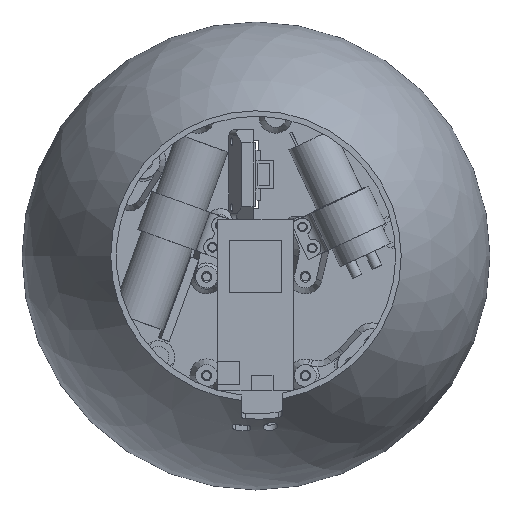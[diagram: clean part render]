
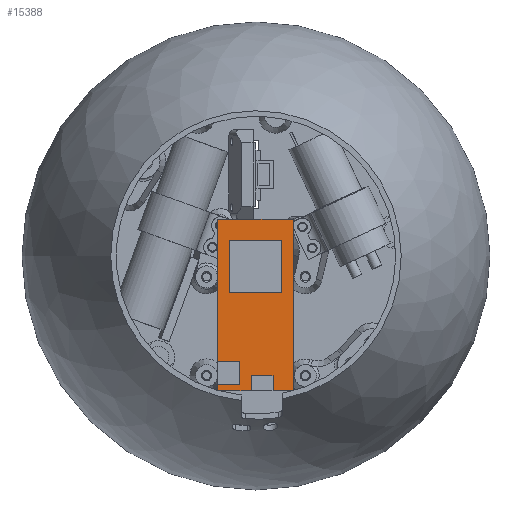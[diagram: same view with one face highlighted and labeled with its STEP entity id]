
A CAD part, front view. The second image highlights one B-rep face of the part: STEP entity #15388.
In plain terms, the highlighted planar face has unit normal (0, -1, 0) as drawn and (0, 0, -1) by its records, which use the part's own axes.
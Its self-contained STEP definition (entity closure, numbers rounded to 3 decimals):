
#266=FACE_BOUND('',#2888,.T.);
#1911=FACE_OUTER_BOUND('',#2887,.T.);
#2887=EDGE_LOOP('',(#13373,#13374,#13375,#13376,#13377,#13378,#13379,#13380,
#13381,#13382,#13383,#13384));
#2888=EDGE_LOOP('',(#13385,#13386,#13387,#13388));
#4593=LINE('',#34308,#5709);
#4597=LINE('',#34316,#5713);
#4600=LINE('',#34322,#5716);
#4604=LINE('',#34331,#5720);
#4608=LINE('',#34339,#5724);
#4611=LINE('',#34345,#5727);
#4615=LINE('',#34353,#5731);
#4616=LINE('',#34354,#5732);
#4617=LINE('',#34356,#5733);
#4618=LINE('',#34358,#5734);
#4619=LINE('',#34360,#5735);
#4620=LINE('',#34361,#5736);
#4621=LINE('',#34364,#5737);
#4622=LINE('',#34366,#5738);
#4623=LINE('',#34368,#5739);
#4624=LINE('',#34369,#5740);
#5709=VECTOR('',#20447,10.);
#5713=VECTOR('',#20453,10.);
#5716=VECTOR('',#20458,10.);
#5720=VECTOR('',#20466,10.);
#5724=VECTOR('',#20472,10.);
#5727=VECTOR('',#20477,10.);
#5731=VECTOR('',#20485,10.);
#5732=VECTOR('',#20486,10.);
#5733=VECTOR('',#20487,10.);
#5734=VECTOR('',#20488,10.);
#5735=VECTOR('',#20489,10.);
#5736=VECTOR('',#20490,10.);
#5737=VECTOR('',#20491,10.);
#5738=VECTOR('',#20492,10.);
#5739=VECTOR('',#20493,10.);
#5740=VECTOR('',#20494,10.);
#7179=VERTEX_POINT('',#34306);
#7180=VERTEX_POINT('',#34307);
#7183=VERTEX_POINT('',#34315);
#7185=VERTEX_POINT('',#34321);
#7187=VERTEX_POINT('',#34329);
#7188=VERTEX_POINT('',#34330);
#7191=VERTEX_POINT('',#34338);
#7193=VERTEX_POINT('',#34344);
#7195=VERTEX_POINT('',#34352);
#7196=VERTEX_POINT('',#34355);
#7197=VERTEX_POINT('',#34357);
#7198=VERTEX_POINT('',#34359);
#7199=VERTEX_POINT('',#34362);
#7200=VERTEX_POINT('',#34363);
#7201=VERTEX_POINT('',#34365);
#7202=VERTEX_POINT('',#34367);
#9284=EDGE_CURVE('',#7179,#7180,#4593,.T.);
#9288=EDGE_CURVE('',#7180,#7183,#4597,.T.);
#9291=EDGE_CURVE('',#7185,#7179,#4600,.T.);
#9295=EDGE_CURVE('',#7187,#7188,#4604,.T.);
#9299=EDGE_CURVE('',#7188,#7191,#4608,.T.);
#9302=EDGE_CURVE('',#7191,#7193,#4611,.T.);
#9306=EDGE_CURVE('',#7183,#7195,#4615,.T.);
#9307=EDGE_CURVE('',#7195,#7187,#4616,.T.);
#9308=EDGE_CURVE('',#7193,#7196,#4617,.T.);
#9309=EDGE_CURVE('',#7196,#7197,#4618,.T.);
#9310=EDGE_CURVE('',#7197,#7198,#4619,.T.);
#9311=EDGE_CURVE('',#7198,#7185,#4620,.T.);
#9312=EDGE_CURVE('',#7199,#7200,#4621,.T.);
#9313=EDGE_CURVE('',#7200,#7201,#4622,.T.);
#9314=EDGE_CURVE('',#7201,#7202,#4623,.T.);
#9315=EDGE_CURVE('',#7202,#7199,#4624,.T.);
#13373=ORIENTED_EDGE('',*,*,#9288,.T.);
#13374=ORIENTED_EDGE('',*,*,#9306,.T.);
#13375=ORIENTED_EDGE('',*,*,#9307,.T.);
#13376=ORIENTED_EDGE('',*,*,#9295,.T.);
#13377=ORIENTED_EDGE('',*,*,#9299,.T.);
#13378=ORIENTED_EDGE('',*,*,#9302,.T.);
#13379=ORIENTED_EDGE('',*,*,#9308,.T.);
#13380=ORIENTED_EDGE('',*,*,#9309,.T.);
#13381=ORIENTED_EDGE('',*,*,#9310,.T.);
#13382=ORIENTED_EDGE('',*,*,#9311,.T.);
#13383=ORIENTED_EDGE('',*,*,#9291,.T.);
#13384=ORIENTED_EDGE('',*,*,#9284,.T.);
#13385=ORIENTED_EDGE('',*,*,#9312,.T.);
#13386=ORIENTED_EDGE('',*,*,#9313,.T.);
#13387=ORIENTED_EDGE('',*,*,#9314,.T.);
#13388=ORIENTED_EDGE('',*,*,#9315,.T.);
#14560=PLANE('',#17004);
#15388=ADVANCED_FACE('',(#1911,#266),#14560,.T.);
#17004=AXIS2_PLACEMENT_3D('',#34351,#20483,#20484);
#20447=DIRECTION('',(1.,0.,0.));
#20453=DIRECTION('',(0.,1.,0.));
#20458=DIRECTION('',(0.,-1.,0.));
#20466=DIRECTION('',(-1.,0.,0.));
#20472=DIRECTION('',(0.,-1.,0.));
#20477=DIRECTION('',(1.,0.,0.));
#20483=DIRECTION('center_axis',(0.,0.,-1.));
#20484=DIRECTION('ref_axis',(-1.,0.,0.));
#20485=DIRECTION('',(1.,0.,0.));
#20486=DIRECTION('',(0.,-1.,0.));
#20487=DIRECTION('',(0.,-1.,0.));
#20488=DIRECTION('',(-1.,0.,0.));
#20489=DIRECTION('',(0.,1.,0.));
#20490=DIRECTION('',(1.,0.,0.));
#20491=DIRECTION('',(0.,1.,0.));
#20492=DIRECTION('',(-1.,0.,0.));
#20493=DIRECTION('',(0.,-1.,0.));
#20494=DIRECTION('',(1.,0.,0.));
#34306=CARTESIAN_POINT('',(19.5,5.45,-1.));
#34307=CARTESIAN_POINT('',(27.5,5.45,-1.));
#34308=CARTESIAN_POINT('',(13.75,5.45,-1.));
#34315=CARTESIAN_POINT('',(27.5,13.05,-1.));
#34316=CARTESIAN_POINT('',(27.5,6.525,-1.));
#34321=CARTESIAN_POINT('',(19.5,13.05,-1.));
#34322=CARTESIAN_POINT('',(19.5,2.725,-1.));
#34329=CARTESIAN_POINT('',(29.5,1.45,-1.));
#34330=CARTESIAN_POINT('',(24.3,1.45,-1.));
#34331=CARTESIAN_POINT('',(12.15,1.45,-1.));
#34338=CARTESIAN_POINT('',(24.3,-6.05,-1.));
#34339=CARTESIAN_POINT('',(24.3,-3.025,-1.));
#34344=CARTESIAN_POINT('',(29.5,-6.05,-1.));
#34345=CARTESIAN_POINT('',(14.75,-6.05,-1.));
#34351=CARTESIAN_POINT('Origin',(0.,0.,-1.));
#34352=CARTESIAN_POINT('',(29.5,13.05,-1.));
#34353=CARTESIAN_POINT('',(-29.5,13.05,-1.));
#34354=CARTESIAN_POINT('',(29.5,13.05,-1.));
#34355=CARTESIAN_POINT('',(29.5,-13.05,-1.));
#34356=CARTESIAN_POINT('',(29.5,13.05,-1.));
#34357=CARTESIAN_POINT('',(-29.5,-13.05,-1.));
#34358=CARTESIAN_POINT('',(29.5,-13.05,-1.));
#34359=CARTESIAN_POINT('',(-29.5,13.05,-1.));
#34360=CARTESIAN_POINT('',(-29.5,-13.05,-1.));
#34361=CARTESIAN_POINT('',(-29.5,13.05,-1.));
#34362=CARTESIAN_POINT('',(-4.2,-9.,-1.));
#34363=CARTESIAN_POINT('',(-4.2,9.,-1.));
#34364=CARTESIAN_POINT('',(-4.2,4.5,-1.));
#34365=CARTESIAN_POINT('',(-22.2,9.,-1.));
#34366=CARTESIAN_POINT('',(-11.1,9.,-1.));
#34367=CARTESIAN_POINT('',(-22.2,-9.,-1.));
#34368=CARTESIAN_POINT('',(-22.2,-4.5,-1.));
#34369=CARTESIAN_POINT('',(-2.1,-9.,-1.));
